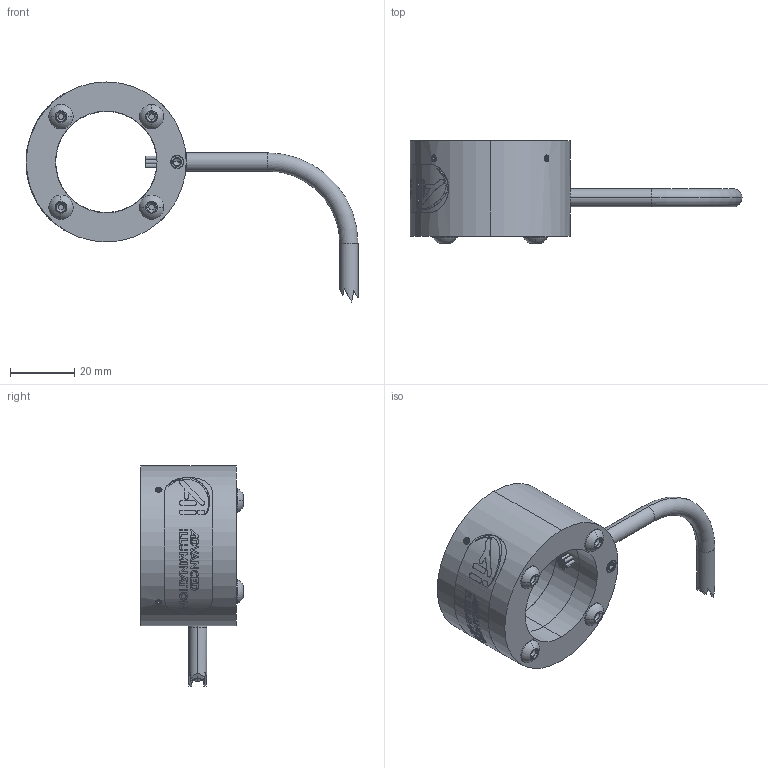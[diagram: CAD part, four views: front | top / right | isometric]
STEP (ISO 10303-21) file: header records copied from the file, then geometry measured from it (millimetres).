
FILE_DESCRIPTION (( 'STEP AP214' ), '1' );
FILE_NAME ('DF196-050_Default.stp', '2021-05-07T18:14:06', ( '' ), ( '' ), 'SwSTEP 2.0', 'SolidWorks 2018', '' );
FILE_SCHEMA (( 'AUTOMOTIVE_DESIGN' ));
Length unit declared in the file: inch
Products named in the file (16): 15mm Ai (RL5064); 092408_TRUNCATED; DF196-050_Default; 15mm Advanced illumination (RL5064); 094131_Default<As Machined>; 092659; 092658; 15mm Swish (RL5064)_Default<As Machined>; 091053 (DF196-50); 092657; 15mm Label (DF196-50_Default<As Machined>; 092736; 91375A074_91375A074; 092735; 094135_91375A438; BH-M4x8
Assembly tree (21 placements, depth 3):
  DF196-050_Default
    092658
    092735
    092659
    092736
    092657
    91375A074_91375A074  x4
    BH-M4x8  x4
    091053 (DF196-50)
      15mm Label (DF196-50_Default<As Machined>
      15mm Ai (RL5064)
      15mm Swish (RL5064)_Default<As Machined>
      15mm Advanced illumination (RL5064)
    094131_Default<As Machined>
    094135_91375A438
    092408_TRUNCATED
Bounding box: 103.71 x 32.07 x 68.76 mm (x, y, z)
Volume: 29898.5 mm3; surface area: 33125.9 mm2
Topology: 51 solids, 51 shells, 979 faces, 2237 edges, 1349 vertices
Faces by surface type: cylinder 342, plane 298, cone 224, bspline 103, torus 12
Entity records: 24852 total; most frequent: CARTESIAN_POINT 11078, ORIENTED_EDGE 2672, DIRECTION 2201, EDGE_CURVE 1336, VERTEX_POINT 851, AXIS2_PLACEMENT_3D 804, EDGE_LOOP 615, LINE 593
